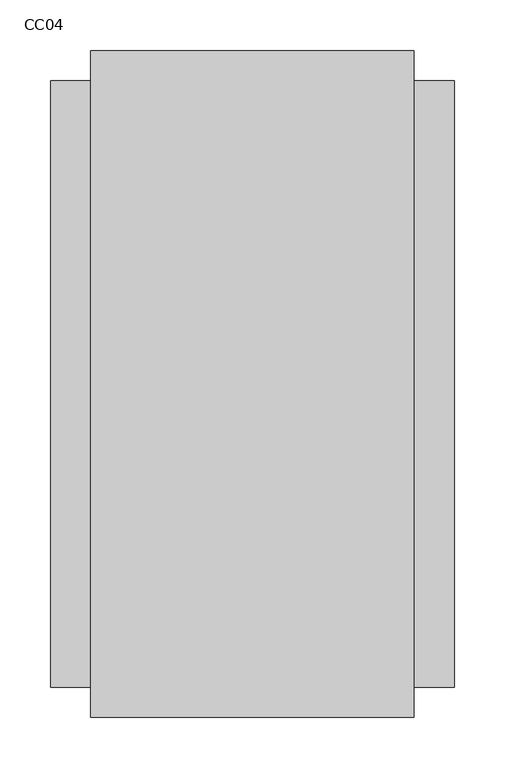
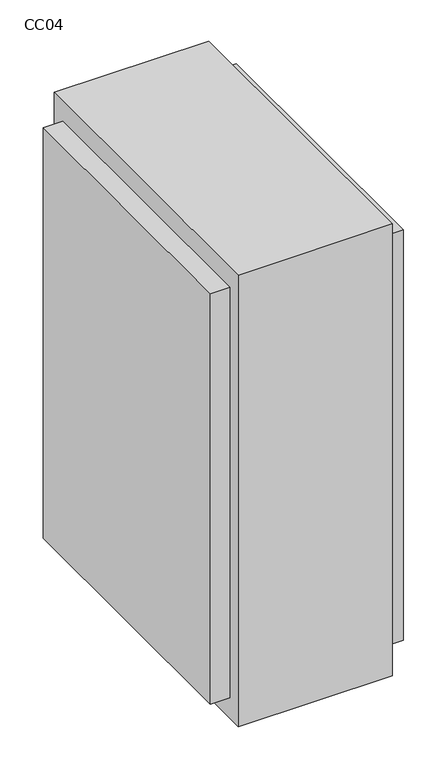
"""IFC4 building model written with IfcOpenShell, lengths in millimetres: damper geometry, ZYR_03.06.07 Comporta Talla Foc Rectangular CC : CC04."""

import ifcopenshell
import ifcopenshell.guid

model = None  # the IFC model being written
_history = None  # IfcOwnerHistory: only IFC2X3 demands one
_inside = {}  # id of a spatial element -> (the spatial element, [elements in it])
_under = {}  # id of a project, library or spatial element -> (it, [spatial elements below it])
_declared = {}  # id of a project -> (the project, [libraries it declares])
_typed = {}  # id of a type object -> (the type object, [elements of that type])
_made_of = {}  # id of a material, layer set ... -> (it, [elements and type objects made of it])


def new_model(schema):
    """Start an empty IFC model of exactly this schema.

    Asked for "IFC4X3", IfcOpenShell would pick the latest addendum, in which some entities
    have other attributes; the version numbers below select the first issue.
    IFC2X3 requires an IfcOwnerHistory on every rooted entity: one is made here for all.
    """
    global model, _history
    if schema == "IFC4X3":
        model = ifcopenshell.file(schema_version=(4, 3, 0, 0))
    else:
        model = ifcopenshell.file(schema=schema)
    _inside.clear()
    _under.clear()
    _declared.clear()
    _typed.clear()
    _made_of.clear()
    _history = None
    if model.schema == "IFC2X3":
        org = make("IfcOrganization", Name="unknown")
        user = make(
            "IfcPersonAndOrganization",
            ThePerson=make("IfcPerson", FamilyName="unknown"),
            TheOrganization=org,
        )
        app = make(
            "IfcApplication",
            ApplicationDeveloper=org,
            Version="unknown",
            ApplicationFullName="unknown",
            ApplicationIdentifier="unknown",
        )
        _history = make(
            "IfcOwnerHistory",
            OwningUser=user,
            OwningApplication=app,
            ChangeAction="ADDED",
            CreationDate=0,
        )
    return model


def make(cls, **values):
    """One entity of the class cls with the attributes given. An attribute that is None is left unset."""
    return model.create_entity(
        cls, **{name: value for name, value in values.items() if value is not None}
    )


def rooted(cls, **values):
    """An entity with a GlobalId (a new one), such as an element, a storey or a relation."""
    return make(cls, GlobalId=ifcopenshell.guid.new(), OwnerHistory=_history, **values)


def si_unit(unit_type, name, prefix=None):
    """IfcSIUnit, for example si_unit("LENGTHUNIT", "METRE", prefix="MILLI")."""
    return make("IfcSIUnit", UnitType=unit_type, Prefix=prefix, Name=name)


def assignment(units):
    """IfcUnitAssignment: the units of a project."""
    return None if units is None else make("IfcUnitAssignment", Units=units)


def point(xyz):
    """IfcCartesianPoint."""
    return None if xyz is None else make("IfcCartesianPoint", Coordinates=xyz)


def direction(xyz):
    """IfcDirection."""
    return None if xyz is None else make("IfcDirection", DirectionRatios=xyz)


def frame(location, z_axis=None, x_axis=None):
    """IfcAxis2Placement3D, a coordinate frame: its origin and axes. An axis left out is left unset."""
    return make(
        "IfcAxis2Placement3D",
        Location=point(location),
        Axis=direction(z_axis),
        RefDirection=direction(x_axis),
    )


def origin():
    """The frame at (0, 0, 0) with its axes left unset."""
    return frame((0.0, 0.0, 0.0))


def place(relative_to, where):
    """IfcLocalPlacement: puts the frame where relative to a parent placement (None: the world)."""
    return make(
        "IfcLocalPlacement", PlacementRelTo=relative_to, RelativePlacement=where
    )


def context(
    kind, dimensions, precision=None, world=None, true_north=None, identifier=None
):
    """IfcGeometricRepresentationContext, for example the 3D "Model" context."""
    return make(
        "IfcGeometricRepresentationContext",
        ContextIdentifier=identifier,
        ContextType=kind,
        CoordinateSpaceDimension=dimensions,
        Precision=precision,
        WorldCoordinateSystem=world,
        TrueNorth=true_north,
    )


def project(units=None, contexts=None):
    """IfcProject with its units and contexts."""
    return rooted(
        "IfcProject",
        Name="project",
        RepresentationContexts=contexts,
        UnitsInContext=assignment(units),
    )


def spatial(cls, under=None, at=None, **own):
    """A site, building, storey or space (cls), placed at a placement, below another one or the project."""
    s = rooted(cls, ObjectPlacement=at, **own)
    if under is not None:
        _under.setdefault(under.id(), (under, []))[1].append(s)
    return s


def polyline(points):
    """IfcPolyline through the points."""
    return make("IfcPolyline", Points=[point(p) for p in points])


def outline(outer, holes=None, kind="AREA"):
    """IfcArbitraryClosedProfileDef: a profile drawn as a closed curve; with holes, ...WithVoids."""
    if holes is None:
        return make("IfcArbitraryClosedProfileDef", ProfileType=kind, OuterCurve=outer)
    return make(
        "IfcArbitraryProfileDefWithVoids",
        ProfileType=kind,
        OuterCurve=outer,
        InnerCurves=holes,
    )


def extrude(swept, where, along, depth):
    """IfcExtrudedAreaSolid: the profile swept, set in the frame where, extruded along a direction by depth."""
    return make(
        "IfcExtrudedAreaSolid",
        SweptArea=swept,
        Position=where,
        ExtrudedDirection=direction(along),
        Depth=depth,
    )


def shape(context_of_items, identifier, shape_type, items):
    """IfcShapeRepresentation: the items that make up one representation, for example the "Body"."""
    return make(
        "IfcShapeRepresentation",
        ContextOfItems=context_of_items,
        RepresentationIdentifier=identifier,
        RepresentationType=shape_type,
        Items=items,
    )


def source(mapping_origin, context_of_items, identifier, shape_type, items):
    """IfcRepresentationMap: a shape defined once, which mapped items show again and again."""
    return make(
        "IfcRepresentationMap",
        MappingOrigin=mapping_origin,
        MappedRepresentation=shape(context_of_items, identifier, shape_type, items),
    )


def transform(
    local_origin,
    x_axis=None,
    y_axis=None,
    z_axis=None,
    scale=None,
    scale2=None,
    scale3=None,
    uniform=True,
):
    """IfcCartesianTransformationOperator3D, or its non-uniform kind. x_axis, y_axis, z_axis: its Axis1, 2, 3."""
    if uniform:
        return make(
            "IfcCartesianTransformationOperator3D",
            Axis1=direction(x_axis),
            Axis2=direction(y_axis),
            LocalOrigin=point(local_origin),
            Scale=scale,
            Axis3=direction(z_axis),
        )
    return make(
        "IfcCartesianTransformationOperator3DnonUniform",
        Axis1=direction(x_axis),
        Axis2=direction(y_axis),
        LocalOrigin=point(local_origin),
        Scale=scale,
        Axis3=direction(z_axis),
        Scale2=scale2,
        Scale3=scale3,
    )


def mapped(mapping_source, mapping_target):
    """IfcMappedItem: shows the shape of a source again, moved by a transform."""
    return make(
        "IfcMappedItem", MappingSource=mapping_source, MappingTarget=mapping_target
    )


def made_of(thing, what):
    """Note that an element or type object is made of a material, layer set ...; save() writes the relation."""
    if what is not None:
        _made_of.setdefault(what.id(), (what, []))[1].append(thing)
    return thing


def element(
    cls,
    number,
    at=None,
    inside=None,
    cuts=None,
    type_object=None,
    material=None,
    context=None,
    identifier="Body",
    shape_type=None,
    held_by="IfcProductDefinitionShape",
    body=None,
    shapes=None,
    **own,
):
    """One element of the class cls, such as IfcWall. Its Tag is "e" and its number.

    at: its placement. inside: the storey or other place that contains it. cuts: it is an
    opening in that element (IfcRelVoidsElement). A single representation is given by context,
    identifier, shape_type and body (its items); several are given by shapes. held_by: the class
    of the entity that holds the representations. save() writes the other relations.
    """
    e = rooted(cls, Tag="e%d" % number, ObjectPlacement=at, **own)
    if body is not None:
        shapes = [shape(context, identifier, shape_type, body)]
    if shapes is not None:
        e.Representation = make(held_by, Representations=shapes)
    if inside is not None:
        _inside.setdefault(inside.id(), (inside, []))[1].append(e)
    if cuts is not None:
        rooted(
            "IfcRelVoidsElement", RelatingBuildingElement=cuts, RelatedOpeningElement=e
        )
    if type_object is not None:
        _typed.setdefault(type_object.id(), (type_object, []))[1].append(e)
    return made_of(e, material)


def aggregate(whole, parts):
    """IfcRelAggregates: a whole, such as a stair, and the parts it consists of."""
    return rooted("IfcRelAggregates", RelatingObject=whole, RelatedObjects=parts)


def save(model, path):
    """Write the relations noted so far, then the file.

    IfcRelAggregates (storeys below a building ...), IfcRelContainedInSpatialStructure (elements
    in a storey), IfcRelDefinesByType, IfcRelAssociatesMaterial and IfcRelDeclares: one each for
    every whole, place, type object, material and project.
    """
    for whole, parts in _under.values():
        aggregate(whole, parts)
    for where, things in _inside.values():
        rooted(
            "IfcRelContainedInSpatialStructure",
            RelatedElements=things,
            RelatingStructure=where,
        )
    for kind, things in _typed.values():
        rooted("IfcRelDefinesByType", RelatedObjects=things, RelatingType=kind)
    for what, things in _made_of.values():
        rooted("IfcRelAssociatesMaterial", RelatedObjects=things, RelatingMaterial=what)
    for by, libraries in _declared.values():
        rooted("IfcRelDeclares", RelatingContext=by, RelatedDefinitions=libraries)
    model.write(path)


def cc04_0ea2dbf1(model_context):
    return source(origin(), model_context, "Body", "SweptSolid", [
        extrude(outline(polyline([(200.0, 300.0), (200.0, -300.0), (-200.0, -300.0), (-200.0, 300.0), (200.0, 300.0)])), frame((0.0, 0.0, -450.0), z_axis=(0.0, 0.0, 1.0), x_axis=(1.0, 0.0, 0.0)), (0.0, 0.0, 1.0), 900.0),
        extrude(outline(polyline([(330.0, 495.0), (330.0, -495.0), (-330.0, -495.0), (-330.0, 495.0), (330.0, 495.0)]), holes=[polyline([(300.0, 450.0), (-300.0, 450.0), (-300.0, -450.0), (300.0, -450.0), (300.0, 450.0)])]), frame((-160.0, 0.0, 0.0), z_axis=(1.0, 0.0, 0.0), x_axis=(0.0, 1.0, 0.0)), (0.0, 0.0, 1.0), 320.0),
    ])


if __name__ == "__main__":
    model = new_model("IFC4")
    model_context = context("Model", 3, world=origin())
    ifc_project = project(units=[si_unit("LENGTHUNIT", "METRE", prefix="MILLI")], contexts=[model_context])
    site = spatial("IfcSite", under=ifc_project)
    building = spatial("IfcBuilding", under=site)
    placement = place(None, origin())
    cc04_shape = cc04_0ea2dbf1(model_context)
    element("IfcDamper", 1, ObjectType="ZYR_03.06.07 Comporta Talla Foc Rectangular CC : CC04", at=placement, inside=building, context=model_context, shape_type="MappedRepresentation", body=[
        mapped(cc04_shape, transform((0.0, 0.0, 0.0), x_axis=(1.0, 0.0, 0.0), y_axis=(0.0, 1.0, 0.0), z_axis=(0.0, 0.0, 1.0))),
    ])
    save(model, "model.ifc")
